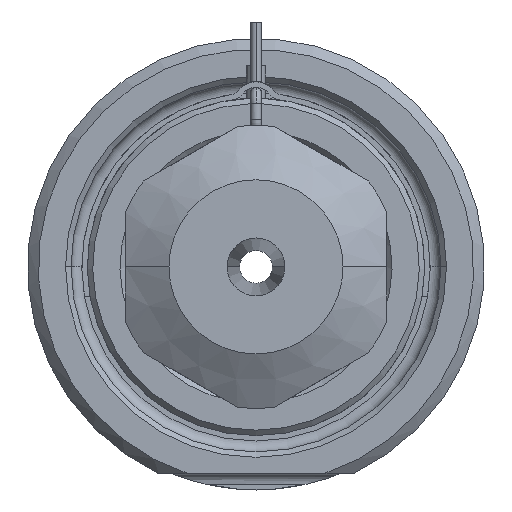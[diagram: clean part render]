
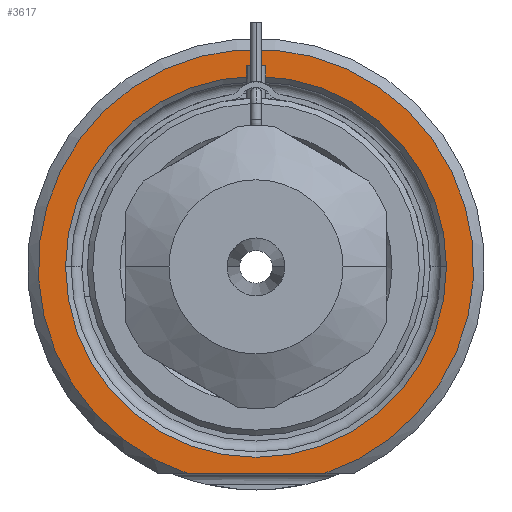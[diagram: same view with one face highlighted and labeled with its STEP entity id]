
A CAD part, front view. The second image highlights one B-rep face of the part: STEP entity #3617.
In plain terms, the highlighted planar face has unit normal (0, -1, 0).
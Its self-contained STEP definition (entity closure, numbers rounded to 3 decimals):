
#690=DIRECTION('',(1.,0.,0.));
#691=VECTOR('',#690,12.49);
#692=CARTESIAN_POINT('',(-6.245,0.,-19.));
#693=LINE('',#692,#691);
#694=CARTESIAN_POINT('',(0.,0.,0.));
#695=DIRECTION('',(0.,1.,0.));
#696=DIRECTION('',(-1.,0.,0.));
#697=AXIS2_PLACEMENT_3D('',#694,#695,#696);
#699=CARTESIAN_POINT('',(0.,0.,0.));
#700=DIRECTION('',(0.,1.,0.));
#701=DIRECTION('',(1.,0.,0.));
#702=AXIS2_PLACEMENT_3D('',#699,#700,#701);
#808=CARTESIAN_POINT('',(0.,0.,0.));
#809=DIRECTION('',(0.,-1.,0.));
#810=DIRECTION('',(0.312,0.,-0.95));
#811=AXIS2_PLACEMENT_3D('',#808,#809,#810);
#2440=CARTESIAN_POINT('',(-17.5,0.,0.));
#2441=CARTESIAN_POINT('',(17.5,0.,0.));
#2442=VERTEX_POINT('',#2440);
#2443=VERTEX_POINT('',#2441);
#2484=CARTESIAN_POINT('',(-6.245,0.,-19.));
#2485=CARTESIAN_POINT('',(6.245,0.,-19.));
#2486=VERTEX_POINT('',#2484);
#2487=VERTEX_POINT('',#2485);
#3601=CARTESIAN_POINT('',(0.,0.,0.));
#3602=DIRECTION('',(0.,-1.,0.));
#3603=DIRECTION('',(1.,0.,0.));
#3604=AXIS2_PLACEMENT_3D('',#3601,#3602,#3603);
#3605=PLANE('',#3604);
#3607=ORIENTED_EDGE('',*,*,#3606,.F.);
#3609=ORIENTED_EDGE('',*,*,#3608,.F.);
#3610=EDGE_LOOP('',(#3607,#3609));
#3611=FACE_OUTER_BOUND('',#3610,.F.);
#3612=ORIENTED_EDGE('',*,*,#3591,.F.);
#3614=ORIENTED_EDGE('',*,*,#3613,.F.);
#3615=EDGE_LOOP('',(#3612,#3614));
#3616=FACE_BOUND('',#3615,.F.);
#3617=ADVANCED_FACE('',(#3611,#3616),#3605,.T.);
#698=CIRCLE('',#697,17.5);
#703=CIRCLE('',#702,17.5);
#812=CIRCLE('',#811,20.);
#3591=EDGE_CURVE('',#2442,#2443,#698,.T.);
#3606=EDGE_CURVE('',#2486,#2487,#693,.T.);
#3608=EDGE_CURVE('',#2487,#2486,#812,.T.);
#3613=EDGE_CURVE('',#2443,#2442,#703,.T.);
